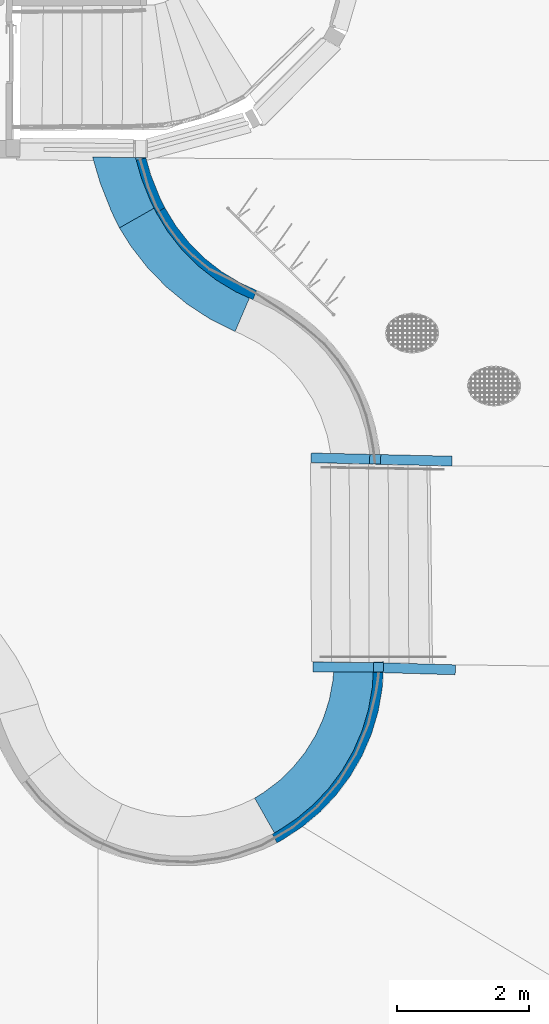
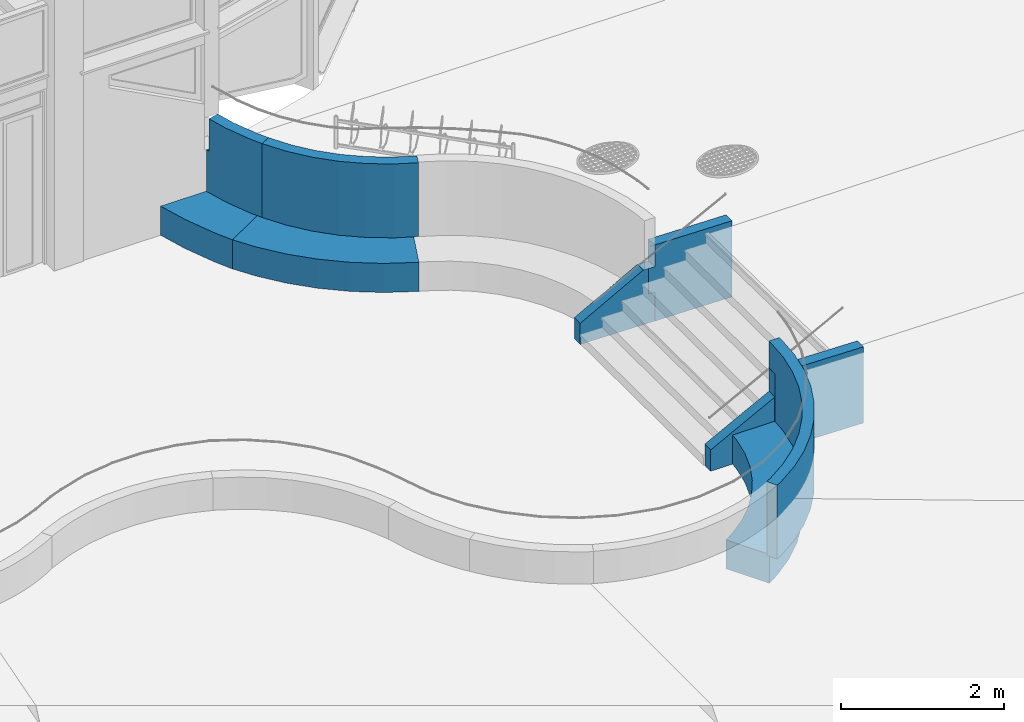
# One storey, part 20 of 133: 10 walls.
"""IFC2X3 building model written with IfcOpenShell, lengths in centimetres."""

from ifc_helpers import new_model, entity, si_unit, converted_unit, direction, frame, origin, origin_with_axes, place, context, subcontext, project, spatial, polyline, outline, extrude, clip, bounded_halfspace, material, layer, layer_set, layer_usage, type_object, element, save


model = new_model("IFC2X3")

# Units and contexts
model_context = context("Model", 3, precision=0.0001, world=origin(), true_north=direction((0.225632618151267, 0.974212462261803, 0.0)))
body_context = subcontext(model_context, "Body", "Model", "MODEL_VIEW")
ifc_project = project(units=[si_unit("LENGTHUNIT", "METRE", prefix="CENTI"), si_unit("AREAUNIT", "SQUARE_METRE", prefix="CENTI"), si_unit("VOLUMEUNIT", "CUBIC_METRE", prefix="CENTI"), converted_unit("PLANEANGLEUNIT", "DEGREE", entity("IfcRatioMeasure", 0.0174532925), si_unit("PLANEANGLEUNIT", "RADIAN"), dimensions=[0, 0, 0, 0, 0, 0, 0])], contexts=[model_context])

# Site, building, storey
site_placement = place(None, origin_with_axes())
site = spatial("IfcSite", under=ifc_project, at=site_placement, Name="Default Site", CompositionType="ELEMENT")
building_placement = place(site_placement, origin_with_axes())
building = spatial("IfcBuilding", under=site, at=building_placement, Name="Default Building", CompositionType="ELEMENT")
storey_placement = place(building_placement, frame((0.0, 0.0, -291.400371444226), z_axis=(0.0, 0.0, 1.0), x_axis=(1.0, 0.0, 0.0)))
storey = spatial("IfcBuildingStorey", under=building, at=storey_placement, Name="Rez-de-Jardin", CompositionType="ELEMENT", Elevation=-291.400371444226)

# Walls
ifc_material = material(Name="<aucun>")
ifc_layer_1 = layer(ifc_material, 15.0)
ifc_layer_set_1 = layer_set([ifc_layer_1], Name="default")
ifc_layer_usage_1 = layer_usage(ifc_layer_set_1, "AXIS2", "POSITIVE", -7.5)
wall_type_1 = type_object("IfcWallType", Name="default 150", PredefinedType="NOTDEFINED", material=ifc_layer_set_1)
wall_1_placement = place(storey_placement, frame((1774.70366601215, -1671.89806880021, -1.94511073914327e-11), z_axis=(0.0, 0.0, 1.0), x_axis=(-0.999583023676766, 0.0288752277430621, 0.0)))
element("IfcWallStandardCase", 1, at=wall_1_placement, inside=storey, type_object=wall_type_1, material=ifc_layer_usage_1, Name="Enveloppe 263538", context=body_context, shape_type="Clipping", body=[
    clip(clip(clip(clip(clip(clip(extrude(outline(polyline([(123.864544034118, 7.49999999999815), (3.5527136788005e-13, 7.49999999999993), (3.5527136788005e-13, -7.50000000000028), (123.703463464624, -7.50000000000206), (123.54694392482, -3.33708426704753), (123.864544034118, 7.49999999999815)])), frame((0.0, 0.0, 1.33226762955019e-13), z_axis=(0.0, 0.0, 1.0), x_axis=(1.0, 0.0, 0.0)), (0.0, 0.0, 1.0), 114.5), bounded_halfspace(frame((121.501663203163, 7.4999999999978, 43.7000000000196), z_axis=(0.0, 0.0, 1.0), x_axis=(1.0, 3.52773366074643e-14, 0.0)), True, frame((121.501663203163, 7.4999999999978, 43.7000000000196), z_axis=(0.0, 0.0, 1.0), x_axis=(1.0, 0.0, 0.0)), polyline([(-0.0213104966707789, -0.356560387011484), (-3.5527136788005e-13, -3.5527136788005e-13), (2.36288083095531, 3.5527136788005e-13), (2.35137269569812, -0.392678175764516), (1.86547410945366, -0.40387432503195), (-0.0213104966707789, -0.356560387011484)]))), bounded_halfspace(frame((108.774884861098, 7.49999999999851, 43.7000000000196), z_axis=(0.0, 0.0, 1.0), x_axis=(1.0, -2.37004860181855e-13, 0.0)), True, frame((108.774884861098, 7.49999999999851, 43.7000000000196), z_axis=(0.0, 0.0, 1.0), x_axis=(1.0, 0.0, 0.0)), polyline([(0.0, -0.740111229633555), (-3.5527136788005e-13, 0.0), (0.108607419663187, 0.0), (0.0869758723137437, -0.738107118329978), (0.0, -0.740111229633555)]))), bounded_halfspace(frame((123.367137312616, 7.0961256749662, 43.7000000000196), z_axis=(0.0, 0.0, 1.0), x_axis=(-0.999734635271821, -0.0230360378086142, 0.0)), True, frame((123.367137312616, 7.0961256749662, 43.7000000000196), z_axis=(0.0, 0.0, 1.0), x_axis=(1.0, 0.0, 0.0)), polyline([(-14.5052765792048, -0.334232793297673), (-14.4836450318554, 0.403874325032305), (-1.86547410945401, 0.403874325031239), (-1.88678460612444, 0.0473139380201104), (0.0, -3.5527136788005e-13), (-14.5052765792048, -0.334232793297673)]))), bounded_halfspace(frame((108.774884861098, 6.75988877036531, 43.7000000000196), z_axis=(0.0, 0.0, 1.0), x_axis=(0.999734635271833, 0.0230360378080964, 0.0)), True, frame((108.774884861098, 6.75988877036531, 43.7000000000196), z_axis=(0.0, 0.0, 1.0), x_axis=(1.0, 0.0, 0.0)), polyline([(7.105427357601e-13, -2.96576834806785), (0.0, -3.5527136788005e-13), (0.0869758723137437, 0.00200411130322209), (7.105427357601e-13, -2.96576834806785)]))), bounded_halfspace(frame((123.85303589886, 7.10732182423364, 79.9999999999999), z_axis=(0.0, 0.0, 1.0), x_axis=(-0.0292942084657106, -0.999570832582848, 0.0)), True, frame((123.85303589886, 7.10732182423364, 79.9999999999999), z_axis=(0.0, 0.0, 1.0), x_axis=(1.0, 0.0, 0.0)), polyline([(-15.0781510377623, -14.6073218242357), (-15.078151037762, -3.31320140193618), (-14.9911751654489, -0.345428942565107), (3.5527136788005e-13, -3.5527136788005e-13), (-0.306091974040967, -10.4444060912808), (-0.149572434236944, -14.6073218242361), (-15.0781510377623, -14.6073218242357)]))), bounded_halfspace(frame((108.774884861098, 6.75988877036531, 79.9999999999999), z_axis=(0.0, 0.0, 1.0), x_axis=(0.999734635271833, 0.0230360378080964, 0.0)), True, frame((108.774884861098, 6.75988877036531, 79.9999999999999), z_axis=(0.0, 0.0, 1.0), x_axis=(1.0, 0.0, 0.0)), polyline([(7.105427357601e-13, -2.96576834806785), (0.0, -3.5527136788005e-13), (0.0869758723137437, 0.00200411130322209), (7.105427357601e-13, -2.96576834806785)]))),
])
ifc_layer_2 = layer(ifc_material, 14.8)
ifc_layer_set_2 = layer_set([ifc_layer_2], Name="default")
ifc_layer_usage_2 = layer_usage(ifc_layer_set_2, "AXIS2", "POSITIVE", -7.4)
wall_type_2 = type_object("IfcWallType", Name="default 148", PredefinedType="NOTDEFINED", material=ifc_layer_set_2)
wall_2_placement = place(storey_placement, frame((1769.64458656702, -1356.71995843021, -1.94511073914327e-11), z_axis=(0.0, 0.0, 1.0), x_axis=(-0.999741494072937, 0.0227364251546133, 0.0)))
element("IfcWallStandardCase", 2, at=wall_2_placement, inside=storey, type_object=wall_type_2, material=ifc_layer_usage_2, Name="Enveloppe 258965", context=body_context, shape_type="Clipping", body=[
    clip(clip(clip(extrude(outline(polyline([(116.666267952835, 7.39999999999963), (-7.105427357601e-13, 7.40000000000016), (-3.5527136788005e-13, -7.39999999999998), (109.242409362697, -7.40000000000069), (107.717492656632, 6.63169567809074), (107.707689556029, 7.19999999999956), (116.666267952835, 7.19999999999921), (116.666267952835, 7.39999999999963)])), frame((0.0, 0.0, 8.88178419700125e-14), z_axis=(0.0, 0.0, 1.0), x_axis=(1.0, 0.0, 0.0)), (0.0, 0.0, 1.0), 114.5), bounded_halfspace(frame((107.707689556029, 7.19999999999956, 43.7000000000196), z_axis=(0.0, 0.0, 1.0), x_axis=(4.20514317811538e-13, 1.0, 0.0)), True, frame((107.707689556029, 7.19999999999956, 43.7000000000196), z_axis=(0.0, 0.0, 1.0), x_axis=(1.0, 0.0, 0.0)), polyline([(-3.5527136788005e-13, 1.77635683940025e-13), (3.5527136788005e-13, 0.200000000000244), (8.95857839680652, 0.200000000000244), (8.95857839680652, -3.5527136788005e-13), (-3.5527136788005e-13, 1.77635683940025e-13)]))), bounded_halfspace(frame((107.707689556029, 6.83169525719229, 82.0), z_axis=(0.0, 0.0, 1.0), x_axis=(0.0489568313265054, -0.998800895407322, 0.0)), True, frame((107.707689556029, 6.83169525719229, 82.0), z_axis=(0.0, 0.0, 1.0), x_axis=(1.0, 0.0, 0.0)), polyline([(-7.105427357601e-13, -14.2316952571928), (0.0, 0.0), (0.00980310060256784, -0.199999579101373), (1.53471980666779, -14.2316952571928), (-7.105427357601e-13, -14.2316952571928)]))), bounded_halfspace(frame((116.666267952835, 7.19999999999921, 82.0), z_axis=(0.0, 0.0, -1.0), x_axis=(-1.37558020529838e-12, 1.0, 0.0)), True, frame((116.666267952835, 7.19999999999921, 82.0), z_axis=(0.0, 0.0, 1.0), x_axis=(1.0, 0.0, 0.0)), polyline([(-8.95857839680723, 5.32907051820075e-13), (-3.5527136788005e-13, 0.0), (-3.5527136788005e-13, 0.2000000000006), (-8.95857839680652, 0.2000000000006), (-8.95857839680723, 5.32907051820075e-13)]))),
])
ifc_layer_3 = layer(ifc_material, 14.6)
ifc_layer_set_3 = layer_set([ifc_layer_3], Name="default")
ifc_layer_usage_3 = layer_usage(ifc_layer_set_3, "AXIS2", "POSITIVE", -7.3)
wall_type_3 = type_object("IfcWallType", Name="default 146", PredefinedType="NOTDEFINED", material=ifc_layer_set_3)
wall_3_placement = place(storey_placement, frame((1651.22570790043, -1668.12910590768, -1.94511073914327e-11), z_axis=(0.0, 0.0, 1.0), x_axis=(-0.999982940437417, 0.00584113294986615, 0.0)))
solid = clip(clip(clip(clip(clip(clip(clip(clip(extrude(outline(polyline([(91.1613749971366, 7.30000000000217), (28.8599103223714, 7.30000000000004), (-14.5961257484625, 7.29999999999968), (-14.9246170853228, -6.95610469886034), (2.8421709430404e-12, -7.29999999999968), (28.8599103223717, -7.29999999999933), (91.1613749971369, -7.29999999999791), (91.1613749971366, 7.30000000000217)])), frame((0.0, 0.0, 8.88178419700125e-14), z_axis=(0.0, 0.0, 1.0), x_axis=(1.0, 0.0, 0.0)), (0.0, 0.0, 1.0), 79.9999999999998), bounded_halfspace(frame((28.8599103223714, 7.3000000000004, 43.7000000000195), z_axis=(0.0, 0.0, 1.0), x_axis=(0.0, -1.0, 0.0)), True, frame((28.8599103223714, 7.3000000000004, 43.7000000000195), z_axis=(0.0, 0.0, 1.0), x_axis=(1.0, 0.0, 0.0)), polyline([(-28.3864303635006, -0.239529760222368), (-28.3738827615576, -3.5527136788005e-13), (0.0, 0.0), (0.0, -14.5999999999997), (-28.3864303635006, -0.239529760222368)]))), bounded_halfspace(frame((-14.6644453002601, 4.33501866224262, 43.7000000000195), z_axis=(0.0, 0.0, 1.0), x_axis=(0.0230360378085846, 0.999734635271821, 0.0)), True, frame((-14.6644453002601, 4.33501866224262, 43.7000000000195), z_axis=(0.0, 0.0, 1.0), x_axis=(1.0, 0.0, 0.0)), polyline([(-0.260171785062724, -11.291123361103), (0.0683195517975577, 2.96498133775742), (14.664445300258, 2.96498133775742), (15.1379252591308, 2.72545157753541), (14.6038643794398, -7.46960203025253), (14.6644453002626, -11.6350186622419), (-0.260171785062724, -11.291123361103)]))), bounded_halfspace(frame((-0.0605809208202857, -3.13458336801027, 43.7000000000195), z_axis=(0.0, 0.0, 1.0), x_axis=(0.052312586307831, 0.998630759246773, 0.0)), True, frame((-0.0605809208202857, -3.13458336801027, 43.7000000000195), z_axis=(0.0, 0.0, 1.0), x_axis=(1.0, 0.0, 0.0)), polyline([(0.0, 3.5527136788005e-13), (0.0605809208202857, 1.15647065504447), (0.0605809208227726, -4.16541663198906), (0.0, 3.5527136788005e-13)]))), bounded_halfspace(frame((-2.1316282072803e-12, 7.30000000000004, 43.7000000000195), z_axis=(0.0, 0.0, 1.0), x_axis=(1.0, -3.24133081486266e-15, 0.0)), True, frame((-2.1316282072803e-12, 7.30000000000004, 43.7000000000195), z_axis=(0.0, 0.0, 1.0), x_axis=(1.0, 0.0, 0.0)), polyline([(0.0, 0.0), (0.486027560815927, 0.0), (0.473479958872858, -0.239529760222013), (0.0, 0.0)]))), bounded_halfspace(frame((0.0, -1.9781127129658, 43.7000000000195), z_axis=(0.0, 0.0, 1.0), x_axis=(0.0523125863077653, 0.998630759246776, 0.0)), True, frame((0.0, -1.9781127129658, 43.7000000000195), z_axis=(0.0, 0.0, 1.0), x_axis=(1.0, 0.0, 0.0)), polyline([(2.48689957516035e-12, -5.32188728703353), (0.0, 0.0), (0.473479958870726, 9.03858295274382), (28.8599103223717, -5.32188728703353), (2.48689957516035e-12, -5.32188728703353)]))), bounded_halfspace(frame((28.859910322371, 7.30000000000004, 43.7000000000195), z_axis=(0.0, 0.0, 1.0), x_axis=(1.0, 3.42651254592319e-14, 0.0)), True, frame((28.859910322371, 7.30000000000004, 43.7000000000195), z_axis=(0.0, 0.0, 1.0), x_axis=(1.0, 0.0, 0.0)), polyline([(3.5527136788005e-13, -14.5999999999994), (0.0, 0.0), (31.4228793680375, 1.77635683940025e-12), (31.1831598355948, -2.89086149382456), (30.9356611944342, -14.5999999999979), (3.5527136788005e-13, -14.5999999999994)]))), bounded_halfspace(frame((0.473479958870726, 7.06047023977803, 79.7539077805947), z_axis=(-0.46117960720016, -7.05902350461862e-15, -0.887306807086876), x_axis=(-0.0522932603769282, -0.998261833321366, 0.0271795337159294)), True, frame((0.473479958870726, 7.06047023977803, 79.7539077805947), z_axis=(0.0, 0.0, 1.0), x_axis=(1.0, 0.0, 0.0)), polyline([(0.0, 0.0), (28.3864303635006, -14.3604702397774), (28.3864303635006, 0.239529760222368), (0.0125476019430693, 0.239529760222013), (0.0, 0.0)]))), bounded_halfspace(frame((0.0, -1.9781127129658, 79.9999999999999), z_axis=(-0.46117960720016, -7.05902350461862e-15, -0.887306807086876), x_axis=(0.887306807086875, 1.30711413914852e-14, -0.461179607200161)), True, frame((0.0, -1.9781127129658, 79.9999999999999), z_axis=(0.0, 0.0, 1.0), x_axis=(1.0, 0.0, 0.0)), polyline([(2.48689957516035e-12, -5.32188728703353), (28.8599103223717, -5.32188728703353), (0.473479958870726, 9.03858295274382), (0.0, 0.0), (2.48689957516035e-12, -5.32188728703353)])))
element("IfcWallStandardCase", 3, at=wall_3_placement, inside=storey, type_object=wall_type_3, material=ifc_layer_usage_3, Name="Enveloppe 266795", context=body_context, shape_type="Clipping", body=[
    clip(clip(solid, bounded_halfspace(frame((59.7955715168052, -7.29999999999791, 48.6139194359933), z_axis=(-0.468074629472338, -7.33657926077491e-15, -0.883688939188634), x_axis=(-0.883688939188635, -1.74357056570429e-14, 0.468074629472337)), True, frame((59.7955715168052, -7.29999999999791, 48.6139194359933), z_axis=(0.0, 0.0, 1.0), x_axis=(1.0, 0.0, 0.0)), polyline([(0.0, 0.0), (31.3658034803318, 3.5527136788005e-13), (31.3658034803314, 14.6000000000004), (0.48721817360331, 14.5999999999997), (0.247498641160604, 11.7091385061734), (0.0, 0.0)]))), bounded_halfspace(frame((28.8599103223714, -7.29999999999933, 64.9999999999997), z_axis=(-0.468074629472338, -7.33657926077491e-15, -0.883688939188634), x_axis=(0.883688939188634, 4.19143886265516e-14, -0.468074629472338)), True, frame((28.8599103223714, -7.29999999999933, 64.9999999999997), z_axis=(0.0, 0.0, 1.0), x_axis=(1.0, 0.0, 0.0)), polyline([(0.0, 0.0), (30.9356611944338, 1.4210854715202e-12), (31.1831598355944, 11.7091385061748), (31.4228793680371, 14.6000000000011), (-3.5527136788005e-13, 14.5999999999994), (0.0, 0.0)]))),
])
ifc_layer_usage_4 = layer_usage(ifc_layer_set_3, "AXIS2", "POSITIVE", -7.3)
wall_4_placement = place(storey_placement, frame((1661.96758720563, -1354.1711095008, -1.94511073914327e-11), z_axis=(0.0, 0.0, 1.0), x_axis=(-0.999741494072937, 0.0227364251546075, 0.0)))
element("IfcWallStandardCase", 4, at=wall_4_placement, inside=storey, type_object=wall_type_3, material=ifc_layer_usage_4, Name="Enveloppe 247715", context=body_context, shape_type="Clipping", body=[
    clip(clip(extrude(outline(polyline([(105.020966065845, 7.29999999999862), (43.1767940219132, 7.29999999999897), (11.8572652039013, 7.29999999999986), (0.000573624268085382, 7.30000000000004), (0.000573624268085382, -7.3000000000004), (11.857265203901, -7.3000000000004), (43.1767940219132, -7.30000000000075), (105.020966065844, -7.30000000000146), (105.020966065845, 7.29999999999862)])), frame((0.0, 0.0, 8.88178419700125e-14), z_axis=(0.0, 0.0, 1.0), x_axis=(1.0, 0.0, 0.0)), (0.0, 0.0, 1.0), 82.0), bounded_halfspace(frame((16.6153794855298, 7.29999999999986, 82.0000000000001), z_axis=(-0.491734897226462, 5.33774413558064e-15, -0.870744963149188), x_axis=(5.55111512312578e-16, 1.0, 6.08341383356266e-15)), True, frame((16.6153794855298, 7.29999999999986, 82.0000000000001), z_axis=(0.0, 0.0, 1.0), x_axis=(1.0, 0.0, 0.0)), polyline([(3.5527136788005e-13, -14.5999999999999), (26.5614145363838, -14.6000000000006), (26.5614145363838, -7.105427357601e-13), (3.5527136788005e-13, -1.77635683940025e-13), (3.5527136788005e-13, -14.5999999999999)]))), bounded_halfspace(frame((43.1767940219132, -7.30000000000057, 66.9999999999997), z_axis=(-0.495759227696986, 5.51121648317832e-15, -0.868460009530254), x_axis=(-0.868460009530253, 1.23200061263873e-14, 0.495759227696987)), True, frame((43.1767940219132, -7.30000000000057, 66.9999999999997), z_axis=(0.0, 0.0, 1.0), x_axis=(1.0, 0.0, 0.0)), polyline([(3.5527136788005e-13, -1.77635683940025e-13), (61.8441720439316, -8.88178419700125e-13), (61.844172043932, 14.5999999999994), (7.105427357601e-13, 14.6000000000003), (3.5527136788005e-13, -1.77635683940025e-13)]))),
])
ifc_layer_usage_5 = layer_usage(ifc_layer_set_1, "AXIS2", "POSITIVE", -7.5)
wall_type_4 = type_object("IfcWallType", Name="default 150", PredefinedType="NOTDEFINED", material=ifc_layer_set_1)
wall_5_placement = place(storey_placement, frame((1501.91928592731, -1926.50769104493, 43.7), z_axis=(0.0, 0.0, 1.0), x_axis=(0.882293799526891, 0.47069910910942, 0.0)))
element("IfcWallStandardCase", 5, at=wall_5_placement, inside=storey, type_object=wall_type_4, material=ifc_layer_usage_5, Name="Enveloppe courbe 263823", context=body_context, shape_type="Clipping", body=[
    clip(clip(extrude(outline(polyline([(-0.00562255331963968, 7.49990576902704), (-0.198518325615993, -7.49873688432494), (9.42139009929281, -7.39941259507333), (45.3756554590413, -4.09337210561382), (79.9541084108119, 3.20625538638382), (113.451319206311, 14.4708387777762), (145.414295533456, 29.5480439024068), (175.41079296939, 48.2339774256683), (203.035160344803, 70.275944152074), (227.913825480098, 95.3758642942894), (249.71034710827, 123.1943044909), (268.12996466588, 153.355068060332), (270.578690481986, 158.042809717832), (257.223418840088, 164.871917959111), (254.895557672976, 160.415554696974), (237.38509890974, 131.743471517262), (216.664413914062, 105.2980988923), (193.013714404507, 81.4370651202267), (166.752835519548, 60.4830497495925), (138.23691059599, 42.7194198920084), (107.851568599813, 28.3863981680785), (76.0077191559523, 17.6778141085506), (43.1359957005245, 10.7384829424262), (9.68093190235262, 7.6622472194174), (-0.00562255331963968, 7.49990576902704)])), frame((0.0, 0.0, 1.33226762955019e-13), z_axis=(0.0, 0.0, 1.0), x_axis=(1.0, 0.0, 0.0)), (0.0, 0.0, 1.0), 111.0), bounded_halfspace(frame((249.244805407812, 151.162865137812, 70.7999999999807), z_axis=(0.0, 0.0, 1.0), x_axis=(0.521203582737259, 0.853432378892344, 0.0)), True, frame((249.244805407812, 151.162865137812, 70.7999999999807), z_axis=(0.0, 0.0, 1.0), x_axis=(1.0, 0.0, 0.0)), polyline([(0.0, 0.0), (5.65075226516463, 9.25268955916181), (7.57956089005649, 12.9451227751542), (20.6132859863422, 5.50045883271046), (18.8851592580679, 2.19220292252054), (13.0085619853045, -7.43029115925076), (0.0, 0.0)]))), bounded_halfspace(frame((270.578690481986, 158.042809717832, 70.7999999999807), z_axis=(0.0, 0.0, 1.0), x_axis=(-0.463004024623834, -0.88635617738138, 0.0)), True, frame((270.578690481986, 158.042809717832, 70.7999999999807), z_axis=(0.0, 0.0, 1.0), x_axis=(1.0, 0.0, 0.0)), polyline([(-13.7543241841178, 6.06517819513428), (-13.355271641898, 6.82910824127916), (0.0, 0.0), (-0.720599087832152, -1.37948574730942), (-13.7543241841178, 6.06517819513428)]))),
])
ifc_layer_usage_6 = layer_usage(ifc_layer_set_1, "AXIS2", "POSITIVE", -7.5)
wall_6_placement = place(storey_placement, frame((1328.99114375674, -976.77519298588, 43.6999999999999), z_axis=(0.0, 0.0, 1.0), x_axis=(-0.464900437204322, 0.885362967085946, 0.0)))
element("IfcWallStandardCase", 6, at=wall_6_placement, inside=storey, type_object=wall_type_4, material=ifc_layer_usage_6, Name="Enveloppe courbe 292679", context=body_context, shape_type="Clipping", body=[
    clip(extrude(outline(polyline([(87.007969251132, -3.51240485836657), (55.133561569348, 3.12066795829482), (17.5242173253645, 7.06005826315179), (4.54747350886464e-11, 7.49999999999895), (-1.14656348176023, 7.46666473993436), (-1.11986043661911, -7.53154403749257), (-0.584230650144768, -7.49925203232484), (4.31654711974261e-11, -7.50000000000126), (16.7715480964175, -7.9210461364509), (52.7655622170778, -11.6912387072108), (79.6711743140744, -17.2875042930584), (87.007969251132, -3.51240485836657)])), frame((0.0, 0.0, 1.77635683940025e-13), z_axis=(0.0, 0.0, 1.0), x_axis=(1.0, 0.0, 0.0)), (0.0, 0.0, 1.0), 111.0), bounded_halfspace(frame((86.9499971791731, -3.49703035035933, 62.3000000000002), z_axis=(0.0, 0.0, -1.0), x_axis=(-0.979046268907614, 0.203637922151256, 0.0)), True, frame((86.9499971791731, -3.49703035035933, 62.3000000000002), z_axis=(0.0, 0.0, 1.0), x_axis=(1.0, 0.0, 0.0)), polyline([(-7.85104369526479, -13.6714541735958), (-7.27882286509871, -13.7904739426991), (0.0579720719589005, -0.0153745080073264), (-4.5578460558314, 0.948014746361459), (-7.85104369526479, -13.6714541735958)]))),
])
ifc_layer_usage_7 = layer_usage(ifc_layer_set_1, "AXIS2", "POSITIVE", -7.5)
wall_7_placement = place(storey_placement, frame((1471.92532442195, -1106.10706572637, 43.6999999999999), z_axis=(0.0, 0.0, 1.0), x_axis=(-0.928148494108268, 0.372210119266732, 0.0)))
element("IfcWallStandardCase", 7, at=wall_7_placement, inside=storey, type_object=wall_type_4, material=ifc_layer_usage_7, Name="Enveloppe courbe 292967", context=body_context, shape_type="SweptSolid", body=[
    extrude(outline(polyline([(184.773880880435, -60.4114366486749), (157.693729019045, -40.0093998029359), (127.861695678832, -22.7364788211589), (96.1651508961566, -9.18535114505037), (63.0663016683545, 0.446377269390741), (29.0478037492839, 6.01825413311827), (-1.20792265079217e-11, 7.50000000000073), (-1.10134124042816e-11, -7.49999999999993), (27.5214574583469, -8.90388602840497), (59.7524189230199, -14.1829829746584), (91.1120555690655, -23.3086024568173), (121.143073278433, -36.147672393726), (149.407552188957, -52.5129702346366), (175.064750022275, -71.8429613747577), (184.773880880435, -60.4114366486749)])), frame((0.0, 0.0, 1.77635683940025e-13), z_axis=(0.0, 0.0, 1.0), x_axis=(1.0, 0.0, 0.0)), (0.0, 0.0, 1.0), 111.0),
])
ifc_layer_4 = layer(ifc_material, 62.0)
ifc_layer_set_4 = layer_set([ifc_layer_4], Name="default")
ifc_layer_usage_8 = layer_usage(ifc_layer_set_4, "AXIS2", "POSITIVE", -31.0)
wall_type_5 = type_object("IfcWallType", Name="default 620", PredefinedType="NOTDEFINED", material=ifc_layer_set_4)
wall_8_placement = place(storey_placement, frame((1455.06148344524, -1132.89620014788, 0.0), z_axis=(0.0, 0.0, 1.0), x_axis=(-0.919427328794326, 0.393259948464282, 0.0)))
element("IfcWallStandardCase", 8, at=wall_8_placement, inside=storey, type_object=wall_type_5, material=ifc_layer_usage_8, Name="Enveloppe courbe 239181", context=body_context, shape_type="SweptSolid", body=[
    extrude(outline(polyline([(222.998705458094, -44.202309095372), (195.838228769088, -25.3511858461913), (160.313377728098, -5.7017541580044), (122.842539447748, 9.92039312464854), (83.8805591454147, 21.3256242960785), (43.9003824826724, 28.3754952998), (3.38731464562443, 30.9844302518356), (0.852205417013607, 30.9960828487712), (0.708812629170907, -31.0032580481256), (2.8173622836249, -31.0129499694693), (36.5136678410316, -33.182903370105), (69.7667469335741, -39.0465572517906), (102.172952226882, -48.5327347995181), (133.338916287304, -61.5262866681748), (162.886326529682, -77.8694887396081), (185.476758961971, -93.54870640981), (222.998705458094, -44.202309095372)])), origin_with_axes(), (0.0, 0.0, 1.0), 43.7),
])
ifc_layer_usage_9 = layer_usage(ifc_layer_set_4, "AXIS2", "POSITIVE", -31.0)
wall_9_placement = place(storey_placement, frame((1294.39598073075, -989.465039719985, 0.0), z_axis=(0.0, 0.0, 1.0), x_axis=(-0.457169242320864, 0.889379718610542, 0.0)))
element("IfcWallStandardCase", 9, at=wall_9_placement, inside=storey, type_object=wall_type_5, material=ifc_layer_usage_9, Name="Enveloppe courbe 239018", context=body_context, shape_type="SweptSolid", body=[
    extrude(outline(polyline([(112.443716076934, 18.0861544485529), (72.4569658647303, 25.6799677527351), (26.1831695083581, 30.308541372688), (0.0148637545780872, 30.9923519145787), (-1.08858323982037, 30.8982426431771), (1.49581970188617, -31.0395023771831), (22.9107958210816, -31.6050400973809), (63.4012910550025, -35.6551343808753), (82.5248238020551, -39.2868508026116), (112.443716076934, 18.0861544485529)])), frame((0.0, 0.0, -1.33226762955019e-13), z_axis=(0.0, 0.0, 1.0), x_axis=(1.0, 0.0, 0.0)), (0.0, 0.0, 1.0), 43.7),
])
ifc_layer_usage_10 = layer_usage(ifc_layer_set_4, "AXIS2", "POSITIVE", -31.0)
wall_10_placement = place(storey_placement, frame((1486.28430915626, -1892.93012901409, 0.0), z_axis=(0.0, 0.0, 1.0), x_axis=(0.87042766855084, 0.492296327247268, 0.0)))
element("IfcWallStandardCase", 10, at=wall_10_placement, inside=storey, type_object=wall_type_5, material=ifc_layer_usage_10, Name="Enveloppe courbe 234730", context=body_context, shape_type="SweptSolid", body=[
    extrude(outline(polyline([(0.588966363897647, 31.0207616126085), (0.742844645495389, -30.9738140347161), (21.0752926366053, -30.257076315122), (57.6051992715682, -25.4042296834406), (93.2618698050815, -16.0990673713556), (127.504785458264, -2.48264615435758), (159.814858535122, 15.2386229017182), (189.702301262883, 36.7961034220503), (216.714050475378, 61.8630059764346), (240.440635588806, 90.0593418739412), (252.197789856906, 107.123578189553), (250.607458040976, 108.139963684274), (232.832045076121, 135.160125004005), (205.994206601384, 150.54666326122), (199.955692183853, 140.511648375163), (190.634000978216, 126.982222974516), (171.822314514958, 104.626682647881), (150.405976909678, 84.7523219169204), (126.709638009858, 67.6604158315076), (101.092510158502, 53.6100602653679), (73.9429229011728, 42.8142442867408), (45.6724363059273, 35.4366214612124), (16.7096021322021, 31.5890290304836), (0.588966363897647, 31.0207616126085)])), frame((0.0, 0.0, -8.88178419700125e-14), z_axis=(0.0, 0.0, 1.0), x_axis=(1.0, 0.0, 0.0)), (0.0, 0.0, 1.0), 43.7),
])

save(model, "model.ifc")
